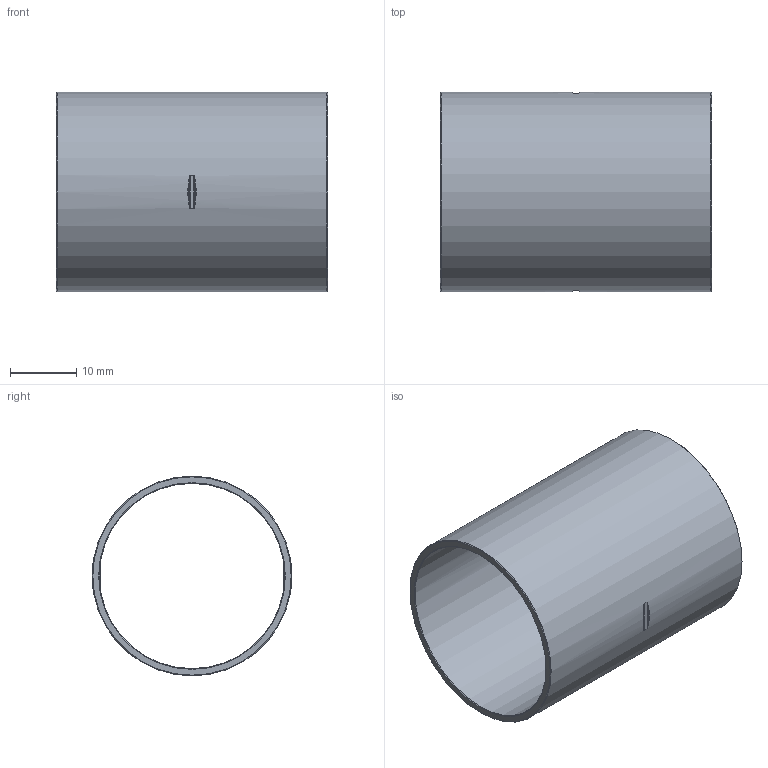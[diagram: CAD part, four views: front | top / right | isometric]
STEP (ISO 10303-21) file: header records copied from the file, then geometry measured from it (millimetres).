
FILE_DESCRIPTION((''),'2;1');
FILE_NAME('G:\SANHA-TERNAT\Technik\Management\Bouwmaten\z-maattekeningen 3D\imate 5000s\15270..._\1527028.stp','2009-10-19T09:09:14',('vdvijverd'),(''),'Autodesk Inventor 2009','Autodesk Inventor 2009','');
FILE_SCHEMA(('AUTOMOTIVE_DESIGN { 1 0 10303 214 1 1 1 1 }'));
Length unit declared in the file: millimetre
Products named in the file (1): 1527028
Bounding box: 41 x 30.18 x 30.18 mm (x, y, z)
Volume: 4083.1 mm3; surface area: 7673.3 mm2
Topology: 1 solids, 1 shells, 36 faces, 96 edges, 64 vertices
Faces by surface type: bspline 14, cylinder 10, plane 8, cone 4
Full cylindrical faces by diameter (mm): 28 x1, 30.18 x1
Entity records: 1396 total; most frequent: CARTESIAN_POINT 585, ORIENTED_EDGE 176, DIRECTION 126, EDGE_CURVE 88, VERTEX_POINT 64, EDGE_LOOP 48, AXIS2_PLACEMENT_3D 47, FACE_OUTER_BOUND 36
